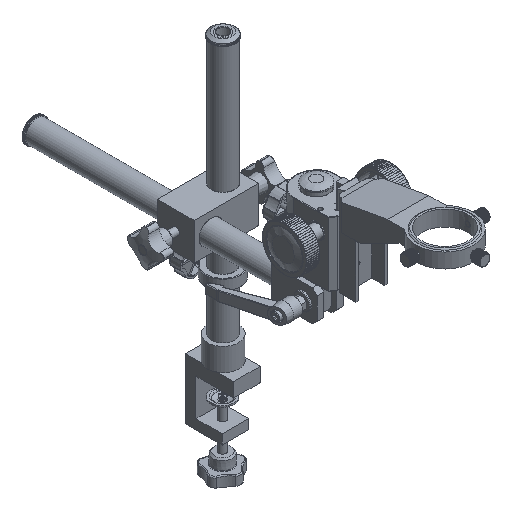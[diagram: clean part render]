
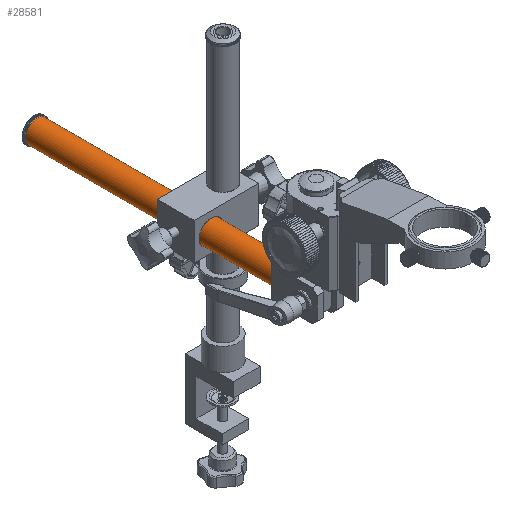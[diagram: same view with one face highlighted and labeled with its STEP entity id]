
A CAD part, isometric view. The second image highlights one B-rep face of the part: STEP entity #28581.
In plain terms, the highlighted cylindrical face has radius 12.5 mm (diameter 25 mm), a full revolution.
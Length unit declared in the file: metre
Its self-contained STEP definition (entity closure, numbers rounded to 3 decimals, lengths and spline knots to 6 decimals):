
#28581=ADVANCED_FACE('0:25961',(#57507,#57508),#57509,.T.);
#29101=EDGE_CURVE('0:26773',#58277,#58277,#58278,.T.);
#29313=EDGE_CURVE('0:26776',#58546,#58546,#58547,.T.);
#57507=FACE_OUTER_BOUND('',#151935,.T.);
#57508=FACE_OUTER_BOUND('',#151936,.T.);
#57509=CYLINDRICAL_SURFACE('',#151937,0.0125);
#58277=VERTEX_POINT('',#153440);
#58278=CIRCLE('',#153441,0.0125);
#58546=VERTEX_POINT('',#153947);
#58547=CIRCLE('',#153948,0.0125);
#151935=EDGE_LOOP('',(#194084));
#151936=EDGE_LOOP('',(#194085));
#151937=AXIS2_PLACEMENT_3D('',#194086,#194087,#194088);
#153440=CARTESIAN_POINT('',(-0.0455,0.259017,-0.002635));
#153441=AXIS2_PLACEMENT_3D('',#194842,#194843,#194844);
#153947=CARTESIAN_POINT('',(-0.0455,-0.010983,-0.002635));
#153948=AXIS2_PLACEMENT_3D('',#195003,#195004,#195005);
#194084=ORIENTED_EDGE('',*,*,#29101,.F.);
#194085=ORIENTED_EDGE('',*,*,#29313,.F.);
#194086=CARTESIAN_POINT('',(-0.033,-0.010983,-0.002635));
#194087=DIRECTION('',(0.,1.0,0.));
#194088=DIRECTION('',(-1.0,0.,0.));
#194842=CARTESIAN_POINT('',(-0.033,0.259017,-0.002635));
#194843=DIRECTION('',(0.,1.0,0.));
#194844=DIRECTION('',(-1.0,0.,0.));
#195003=CARTESIAN_POINT('',(-0.033,-0.010983,-0.002635));
#195004=DIRECTION('',(0.,-1.0,0.));
#195005=DIRECTION('',(-1.0,0.,0.));
